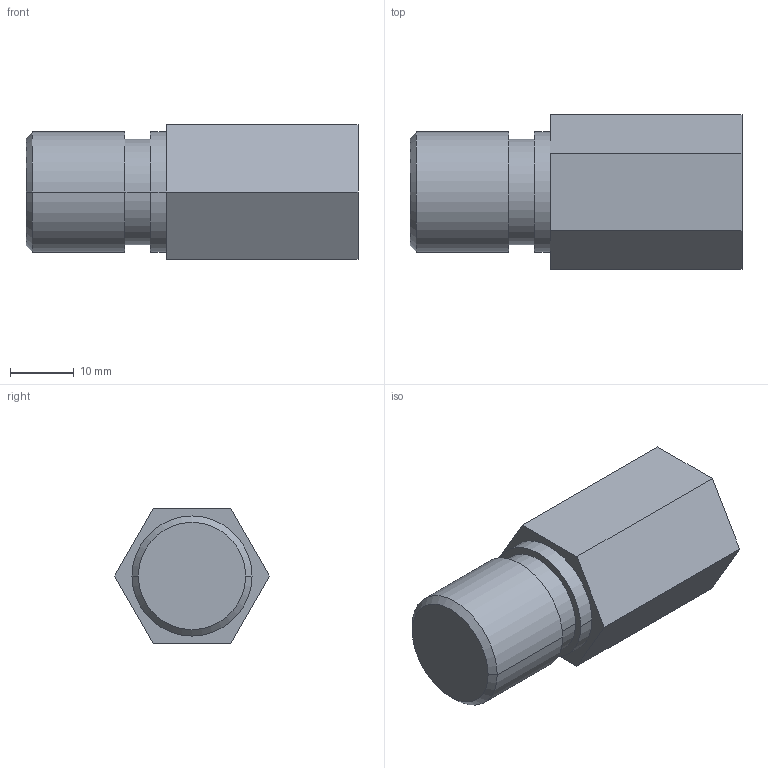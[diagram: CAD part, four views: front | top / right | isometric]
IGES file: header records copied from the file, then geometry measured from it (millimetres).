
Global section: file name: No Iges File Name specified; native system: Autodesk Inventor 2009; preprocessor: AutoDesk Inventor Iges Exporter R2009; author: y-shimohigashi; date: 20080702.095339; units: millimetre
Bounding box: 52 x 24.25 x 21 mm (x, y, z)
Volume: 14264 mm3; surface area: 5014.4 mm2
Topology: 1 solids, 1 shells, 22 faces, 46 edges, 30 vertices
Faces by surface type: plane 12, cylinder 6, cone 2, revolution 2
